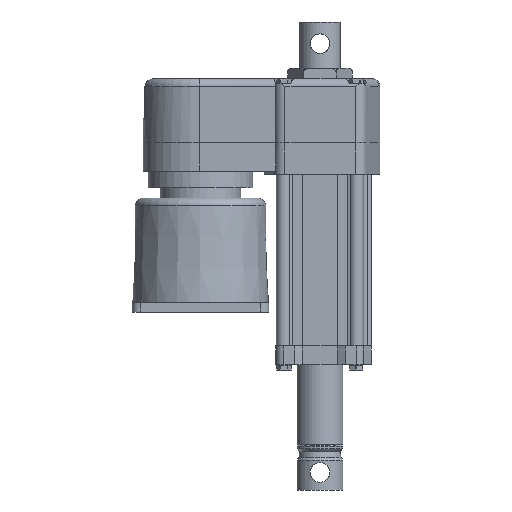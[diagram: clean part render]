
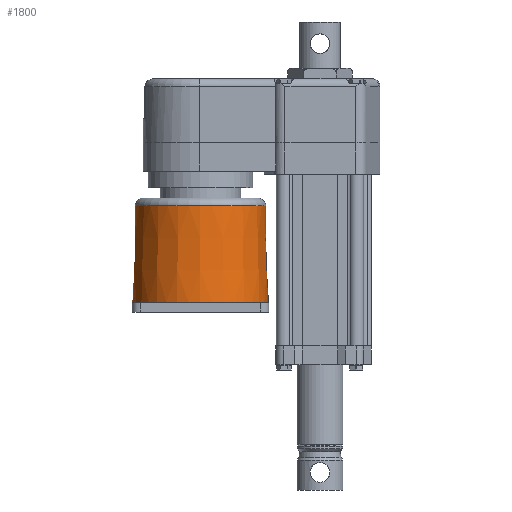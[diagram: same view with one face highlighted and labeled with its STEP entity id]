
A CAD part, left-side view. The second image highlights one B-rep face of the part: STEP entity #1800.
In plain terms, the highlighted conical face has half-angle 1.614 degrees and reference radius 42.5 mm.
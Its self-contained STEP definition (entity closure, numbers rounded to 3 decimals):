
#1111 = CARTESIAN_POINT ( 'NONE',  ( 0., 74.4, -11.3 ) ) ;
#1112 = DIRECTION ( 'NONE',  ( 0., 0., -1. ) ) ;
#1113 = DIRECTION ( 'NONE',  ( -1., 0., 0. ) ) ;
#1156 = CARTESIAN_POINT ( 'NONE',  ( 0., 74.4, 48.841 ) ) ;
#1163 = DIRECTION ( 'NONE',  ( 0., 0., -1. ) ) ;
#1164 = DIRECTION ( 'NONE',  ( 1., 0., 0. ) ) ;
#1324 = EDGE_CURVE ( 'NONE', #10932, #10932, #5731, .T. ) ;
#1343 = EDGE_CURVE ( 'NONE', #10947, #10947, #5801, .T. ) ;
#1800 = ADVANCED_FACE ( 'NONE', ( #6528, #6531 ), #6534, .T. ) ;
#3145 = AXIS2_PLACEMENT_3D ( 'NONE', #1111, #1112, #1113 ) ;
#3157 = AXIS2_PLACEMENT_3D ( 'NONE', #1156, #1163, #1164 ) ;
#5064 = EDGE_LOOP ( 'NONE', ( #5467 ) ) ;
#5085 = EDGE_LOOP ( 'NONE', ( #5462 ) ) ;
#5462 = ORIENTED_EDGE ( 'NONE', *, *, #1343, .T. ) ;
#5467 = ORIENTED_EDGE ( 'NONE', *, *, #1324, .F. ) ;
#5731 = CIRCLE ( 'NONE', #3145, 42.331 ) ;
#5801 = CIRCLE ( 'NONE', #3157, 40.637 ) ;
#6319 = DIRECTION ( 'NONE',  ( 0., 0., -1. ) ) ;
#6328 = DIRECTION ( 'NONE',  ( -1., 0., 0. ) ) ;
#6329 = CARTESIAN_POINT ( 'NONE',  ( 0., 74.4, -17.3 ) ) ;
#6528 = FACE_BOUND ( 'NONE', #5085, .T. ) ;
#6531 = FACE_OUTER_BOUND ( 'NONE', #5064, .T. ) ;
#6534 = CONICAL_SURFACE ( 'NONE', #7685, 42.5, 0.028 ) ;
#7685 = AXIS2_PLACEMENT_3D ( 'NONE', #6329, #6319, #6328 ) ;
#10932 = VERTEX_POINT ( 'NONE', #10938 ) ;
#10938 = CARTESIAN_POINT ( 'NONE',  ( -42.331, 74.4, -11.3 ) ) ;
#10947 = VERTEX_POINT ( 'NONE', #10948 ) ;
#10948 = CARTESIAN_POINT ( 'NONE',  ( 40.637, 74.4, 48.841 ) ) ;
